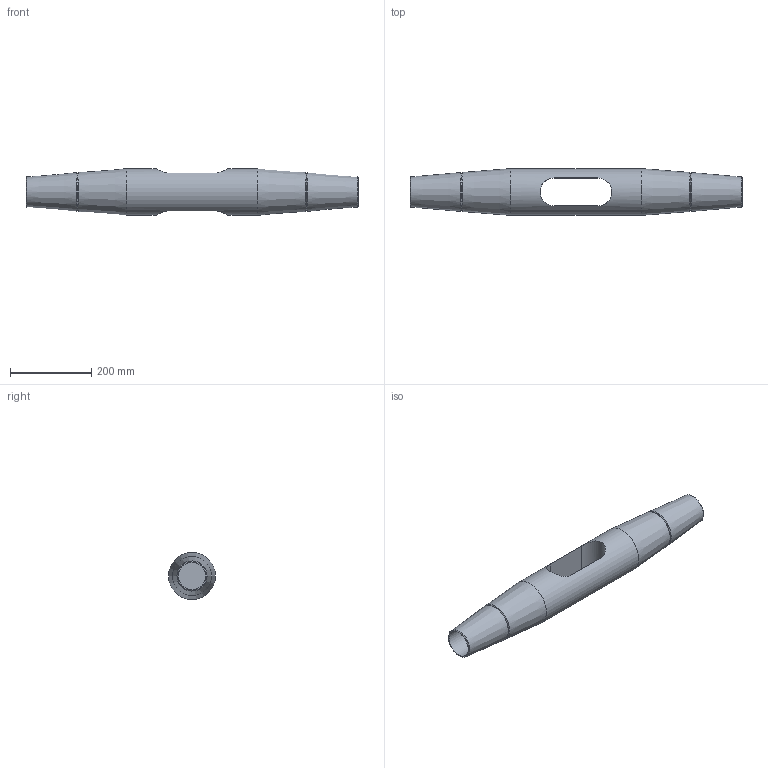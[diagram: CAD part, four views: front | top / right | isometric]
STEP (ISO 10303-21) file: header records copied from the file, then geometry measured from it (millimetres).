
FILE_DESCRIPTION(/* description */ (''),/* implementation_level */ '2;1');
FILE_NAME(/* name */ 'G:\Engineering\700 CAD\Internet-PX-1-step-igs-dxf\520-KMF-Arbeitsdateien\520-064-KMF.stp',/* time_stamp */ '2020-07-02T13:26:12+02:00',/* author */ ('schwarz'),/* organization */ (''),/* preprocessor_version */ 'ST-DEVELOPER v16.1',/* originating_system */ 'Autodesk Inventor 2016',/* authorisation */ '');
FILE_SCHEMA (('AUTOMOTIVE_DESIGN { 1 0 10303 214 3 1 1 }'));
Length unit declared in the file: centimetre
Products named in the file (1): Kreuzmuffen-Set 520 064 Kunde
Bounding box: 817 x 115 x 115 mm (x, y, z)
Volume: 5026894 mm3; surface area: 331627.2 mm2
Topology: 1 solids, 1 shells, 21 faces, 41 edges, 24 vertices
Faces by surface type: cone 10, plane 6, cylinder 5
Full cylindrical faces by diameter (mm): 66.5 x2, 115 x1
Entity records: 653 total; most frequent: CARTESIAN_POINT 206, DIRECTION 84, ORIENTED_EDGE 56, EDGE_LOOP 38, AXIS2_PLACEMENT_3D 38, EDGE_CURVE 28, VERTEX_POINT 24, STYLED_ITEM 22
